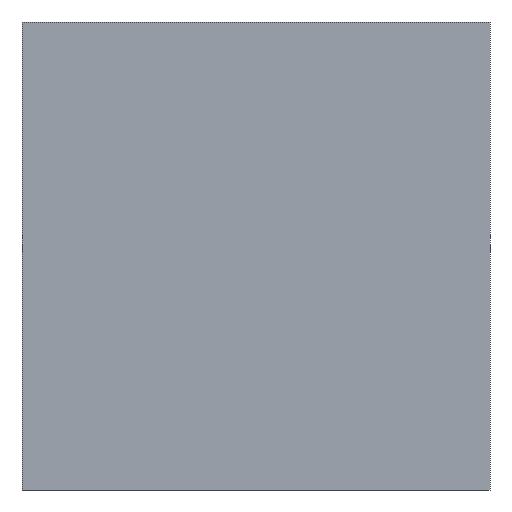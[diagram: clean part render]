
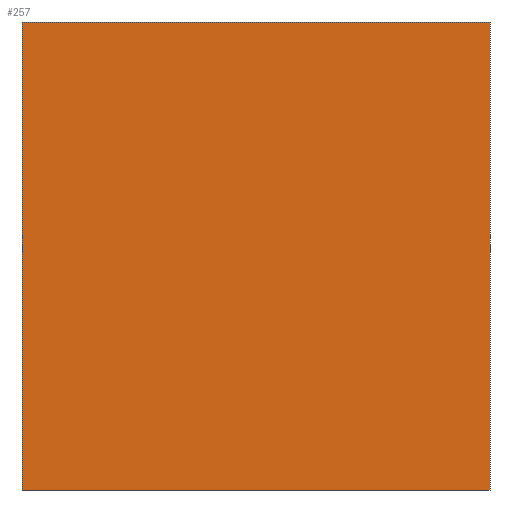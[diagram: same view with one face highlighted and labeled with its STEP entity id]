
A CAD part, front view. The second image highlights one B-rep face of the part: STEP entity #257.
In plain terms, the highlighted planar face has unit normal (0, -1, 0).
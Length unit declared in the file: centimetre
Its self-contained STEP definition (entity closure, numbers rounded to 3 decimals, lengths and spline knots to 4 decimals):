
#4 = DIRECTION ( 'NONE',  ( 0., 1., 0. ) ) ;
#32 = CARTESIAN_POINT ( 'NONE',  ( 0., 0., 0. ) ) ;
#73 = LINE ( 'NONE', #570, #665 ) ;
#131 = CARTESIAN_POINT ( 'NONE',  ( 1000., 0., 1000. ) ) ;
#136 = VECTOR ( 'NONE', #667, 100. ) ;
#184 = VERTEX_POINT ( 'NONE', #296 ) ;
#231 = FACE_OUTER_BOUND ( 'NONE', #692, .T. ) ;
#245 = CARTESIAN_POINT ( 'NONE',  ( 0., 0., 1000. ) ) ;
#257 = ADVANCED_FACE ( 'NONE', ( #231 ), #485, .F. ) ;
#293 = CARTESIAN_POINT ( 'NONE',  ( 0., 0., 1000. ) ) ;
#295 = VECTOR ( 'NONE', #442, 100. ) ;
#296 = CARTESIAN_POINT ( 'NONE',  ( 1000., 0., 0. ) ) ;
#325 = LINE ( 'NONE', #633, #749 ) ;
#348 = CARTESIAN_POINT ( 'NONE',  ( 0., 0., 1000. ) ) ;
#361 = DIRECTION ( 'NONE',  ( 0., 0., 1. ) ) ;
#386 = VERTEX_POINT ( 'NONE', #348 ) ;
#442 = DIRECTION ( 'NONE',  ( 1., 0., 0. ) ) ;
#453 = DIRECTION ( 'NONE',  ( 0., 0., -1. ) ) ;
#465 = VERTEX_POINT ( 'NONE', #32 ) ;
#479 = EDGE_CURVE ( 'NONE', #386, #465, #629, .T. ) ;
#482 = AXIS2_PLACEMENT_3D ( 'NONE', #293, #4, #361 ) ;
#485 = PLANE ( 'NONE',  #482 ) ;
#500 = EDGE_CURVE ( 'NONE', #386, #660, #608, .T. ) ;
#570 = CARTESIAN_POINT ( 'NONE',  ( 0., 0., 0. ) ) ;
#587 = ORIENTED_EDGE ( 'NONE', *, *, #712, .F. ) ;
#608 = LINE ( 'NONE', #722, #295 ) ;
#629 = LINE ( 'NONE', #245, #136 ) ;
#633 = CARTESIAN_POINT ( 'NONE',  ( 1000., 0., 1000. ) ) ;
#652 = ORIENTED_EDGE ( 'NONE', *, *, #500, .F. ) ;
#660 = VERTEX_POINT ( 'NONE', #131 ) ;
#665 = VECTOR ( 'NONE', #693, 100. ) ;
#667 = DIRECTION ( 'NONE',  ( 0., 0., -1. ) ) ;
#692 = EDGE_LOOP ( 'NONE', ( #701, #587, #652, #714 ) ) ;
#693 = DIRECTION ( 'NONE',  ( 1., 0., 0. ) ) ;
#701 = ORIENTED_EDGE ( 'NONE', *, *, #726, .T. ) ;
#712 = EDGE_CURVE ( 'NONE', #660, #184, #325, .T. ) ;
#714 = ORIENTED_EDGE ( 'NONE', *, *, #479, .T. ) ;
#722 = CARTESIAN_POINT ( 'NONE',  ( 0., 0., 1000. ) ) ;
#726 = EDGE_CURVE ( 'NONE', #465, #184, #73, .T. ) ;
#749 = VECTOR ( 'NONE', #453, 100. ) ;
